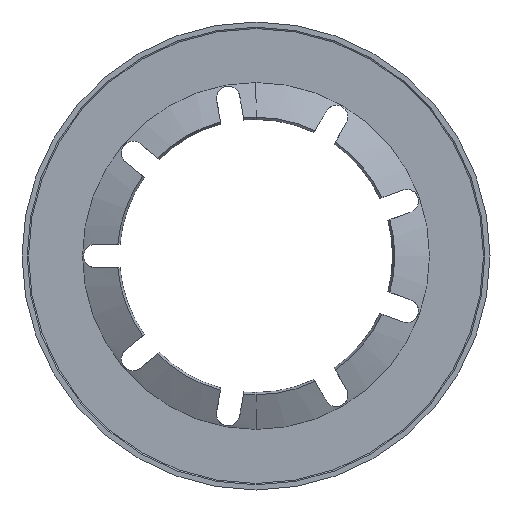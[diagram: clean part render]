
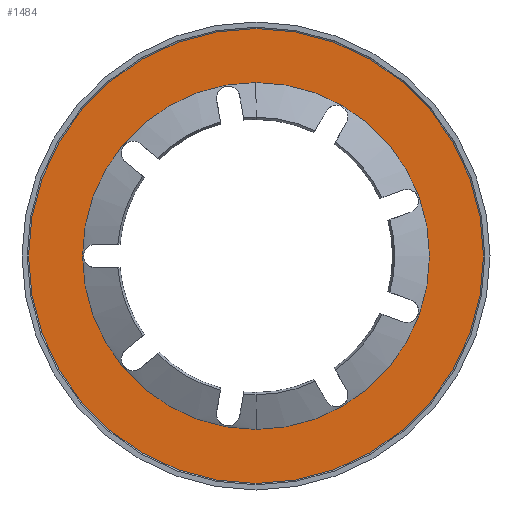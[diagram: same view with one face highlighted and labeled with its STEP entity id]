
A CAD part, left-side view. The second image highlights one B-rep face of the part: STEP entity #1484.
In plain terms, the highlighted planar face has unit normal (-1, 0, 0).
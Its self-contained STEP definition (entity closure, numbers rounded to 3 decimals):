
#10 = AXIS2_PLACEMENT_3D ( 'NONE', #2164, #43, #724 ) ;
#43 = DIRECTION ( 'NONE',  ( 1., 0., 0. ) ) ;
#83 = EDGE_LOOP ( 'NONE', ( #160, #325 ) ) ;
#138 = DIRECTION ( 'NONE',  ( 1., 0., 0. ) ) ;
#160 = ORIENTED_EDGE ( 'NONE', *, *, #2104, .F. ) ;
#222 = DIRECTION ( 'NONE',  ( 0., 0., -1. ) ) ;
#325 = ORIENTED_EDGE ( 'NONE', *, *, #590, .F. ) ;
#333 = CARTESIAN_POINT ( 'NONE',  ( -0.4, 17.5, 0. ) ) ;
#443 = CIRCLE ( 'NONE', #1734, 13.34 ) ;
#495 = CARTESIAN_POINT ( 'NONE',  ( -0.4, 0., 0. ) ) ;
#583 = CARTESIAN_POINT ( 'NONE',  ( -0.4, 0., -13.34 ) ) ;
#590 = EDGE_CURVE ( 'NONE', #1049, #1814, #2218, .T. ) ;
#665 = DIRECTION ( 'NONE',  ( 1., 0., 0. ) ) ;
#724 = DIRECTION ( 'NONE',  ( 0., 0., -1. ) ) ;
#819 = CARTESIAN_POINT ( 'NONE',  ( -0.4, 0., 0. ) ) ;
#863 = EDGE_CURVE ( 'NONE', #2092, #1590, #443, .T. ) ;
#864 = FACE_BOUND ( 'NONE', #1742, .T. ) ;
#875 = DIRECTION ( 'NONE',  ( -1., 0., 0. ) ) ;
#878 = ORIENTED_EDGE ( 'NONE', *, *, #1134, .T. ) ;
#889 = AXIS2_PLACEMENT_3D ( 'NONE', #819, #138, #1514 ) ;
#915 = CARTESIAN_POINT ( 'NONE',  ( -0.4, 0., 0. ) ) ;
#935 = DIRECTION ( 'NONE',  ( 1., 0., 0. ) ) ;
#964 = CARTESIAN_POINT ( 'NONE',  ( -0.4, 0., -17.5 ) ) ;
#1049 = VERTEX_POINT ( 'NONE', #1328 ) ;
#1054 = DIRECTION ( 'NONE',  ( 0., 0., 1. ) ) ;
#1134 = EDGE_CURVE ( 'NONE', #1590, #2092, #1890, .T. ) ;
#1328 = CARTESIAN_POINT ( 'NONE',  ( -0.4, 0., 17.5 ) ) ;
#1329 = AXIS2_PLACEMENT_3D ( 'NONE', #495, #665, #1916 ) ;
#1484 = ADVANCED_FACE ( 'NONE', ( #864, #1900 ), #1758, .T. ) ;
#1514 = DIRECTION ( 'NONE',  ( 0., 0., -1. ) ) ;
#1590 = VERTEX_POINT ( 'NONE', #583 ) ;
#1734 = AXIS2_PLACEMENT_3D ( 'NONE', #915, #935, #222 ) ;
#1742 = EDGE_LOOP ( 'NONE', ( #878, #1947 ) ) ;
#1758 = PLANE ( 'NONE',  #1840 ) ;
#1814 = VERTEX_POINT ( 'NONE', #964 ) ;
#1840 = AXIS2_PLACEMENT_3D ( 'NONE', #333, #875, #1054 ) ;
#1890 = CIRCLE ( 'NONE', #889, 13.34 ) ;
#1900 = FACE_OUTER_BOUND ( 'NONE', #83, .T. ) ;
#1916 = DIRECTION ( 'NONE',  ( 0., 0., -1. ) ) ;
#1947 = ORIENTED_EDGE ( 'NONE', *, *, #863, .T. ) ;
#2092 = VERTEX_POINT ( 'NONE', #2097 ) ;
#2097 = CARTESIAN_POINT ( 'NONE',  ( -0.4, 0., 13.34 ) ) ;
#2104 = EDGE_CURVE ( 'NONE', #1814, #1049, #2260, .T. ) ;
#2164 = CARTESIAN_POINT ( 'NONE',  ( -0.4, 0., 0. ) ) ;
#2218 = CIRCLE ( 'NONE', #1329, 17.5 ) ;
#2260 = CIRCLE ( 'NONE', #10, 17.5 ) ;
